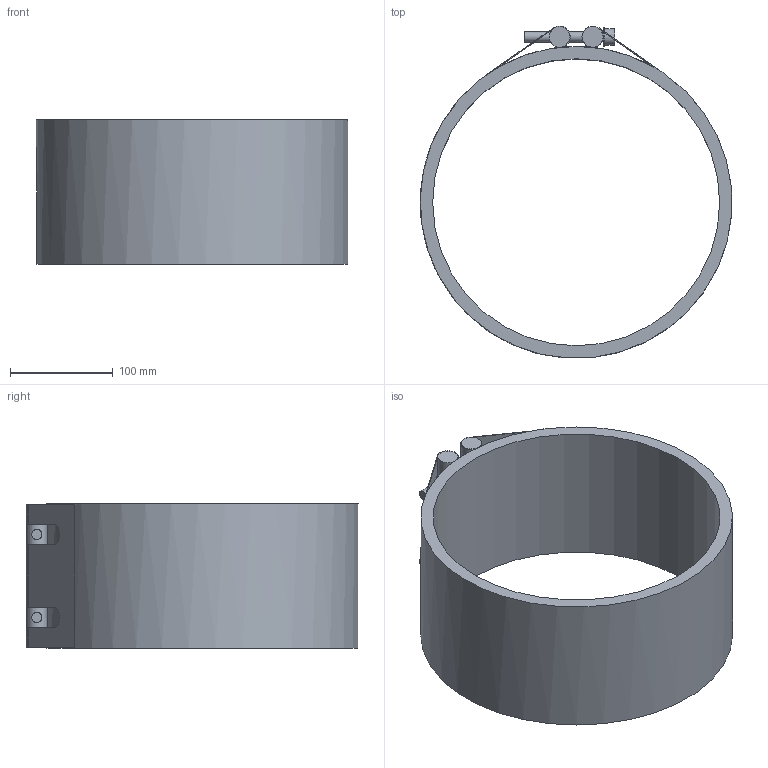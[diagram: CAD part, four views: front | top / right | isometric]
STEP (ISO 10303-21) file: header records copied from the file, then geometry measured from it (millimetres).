
FILE_DESCRIPTION(/* description */ (''),/* implementation_level */ '2;1');
FILE_NAME(/* name */ 'C:\Users\BR_11K\Desktop\STRAUB PLAST-GRIP 280.0.stp',/* time_stamp */ '2016-05-09T08:32:33+02:00',/* author */ ('BR_11K'),/* organization */ (''),/* preprocessor_version */ 'ST-DEVELOPER v16.1',/* originating_system */ 'Autodesk Inventor 2016',/* authorisation */ '');
FILE_SCHEMA (('AUTOMOTIVE_DESIGN { 1 0 10303 214 3 1 1 }'));
Length unit declared in the file: millimetre
Products named in the file (1): STRAUB PLAST-GRIP 280.0
Bounding box: 303.74 x 323.87 x 141 mm (x, y, z)
Volume: 1677056.9 mm3; surface area: 332435.9 mm2
Topology: 1 solids, 1 shells, 88 faces, 254 edges, 163 vertices
Faces by surface type: plane 56, cylinder 30, torus 2
Full cylindrical faces by diameter (mm): 10 x4, 16 x2, 18 x2, 20 x2, 280 x1, 304.2 x1
Entity records: 3052 total; most frequent: CARTESIAN_POINT 739, DIRECTION 476, ORIENTED_EDGE 460, EDGE_CURVE 226, AXIS2_PLACEMENT_3D 171, VERTEX_POINT 156, LINE 134, VECTOR 134
